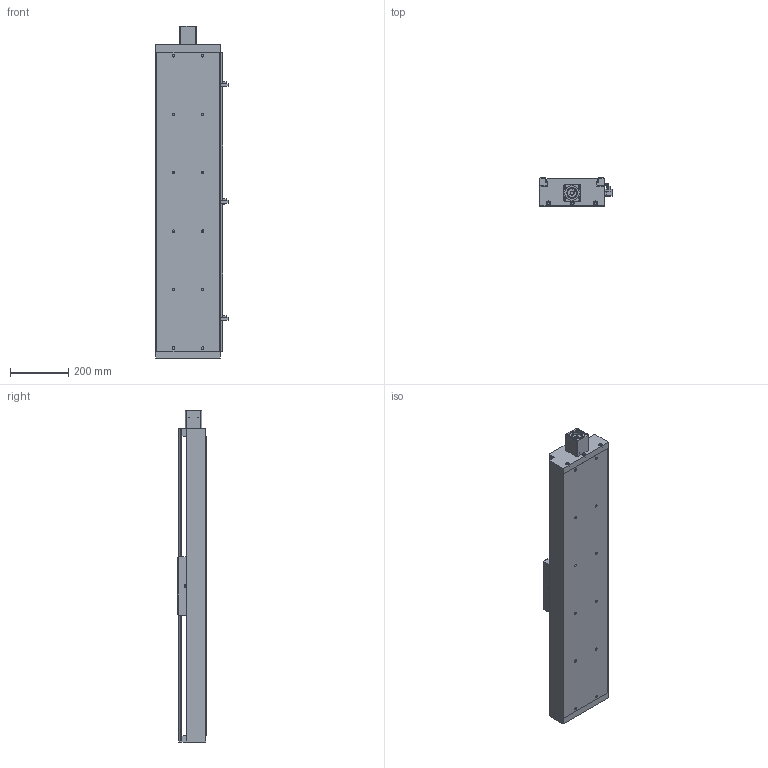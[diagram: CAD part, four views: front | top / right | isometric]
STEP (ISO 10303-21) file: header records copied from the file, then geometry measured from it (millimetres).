
FILE_DESCRIPTION((''),'2;1');
FILE_NAME('E:\libraries\UIA actuator library 2016\standard actuator\UIA220R20NDC\UIA220R20NDC ball screw 20\UIA220R20NDC-_ _ _-R20_ _ stp file, 01May16\UIA220R20NDC-800-R20_ _.stp','2016-04-29T15:31:01',('h029'),(''),'Autodesk Inventor 11','Autodesk Inventor 11','');
FILE_SCHEMA(('AUTOMOTIVE_DESIGN { 1 0 10303 214 1 1 1 1 }'));
Length unit declared in the file: millimetre
Products named in the file (10): UIA220R20NDC-800-R20_ _; UIA220R20NDC-body; 41-100 0010 CARRIAGE; sensor rail; Sensor Switch; motor mount M60; SOH-32C; SOH-32C-3; SOH-32C-1; SOH-32C-2
Assembly tree (9 placements, depth 3):
  UIA220R20NDC-800-R20_ _
    UIA220R20NDC-body
    41-100 0010 CARRIAGE
    sensor rail
    Sensor Switch
    motor mount M60
    SOH-32C
      SOH-32C-3
      SOH-32C-1
      SOH-32C-2
Bounding box: 246.5 x 96 x 1136 mm (x, y, z)
Volume: 6600231.5 mm3; surface area: 1576078.7 mm2
Topology: 8 solids, 8 shells, 524 faces, 1390 edges, 914 vertices
Faces by surface type: plane 341, bspline 133, cylinder 48, cone 2
Full cylindrical faces by diameter (mm): 3.242 x2, 4.5 x2, 7 x4, 7.5 x2, 12 x2, 13.8 x3, 14 x4, 15 x1, 32 x3, 37 x1, 46.9 x1, 47.1 x1
Entity records: 17126 total; most frequent: CARTESIAN_POINT 4924, ORIENTED_EDGE 2362, DIRECTION 2313, EDGE_CURVE 1181, VECTOR 849, LINE 849, VERTEX_POINT 840, EDGE_LOOP 775
